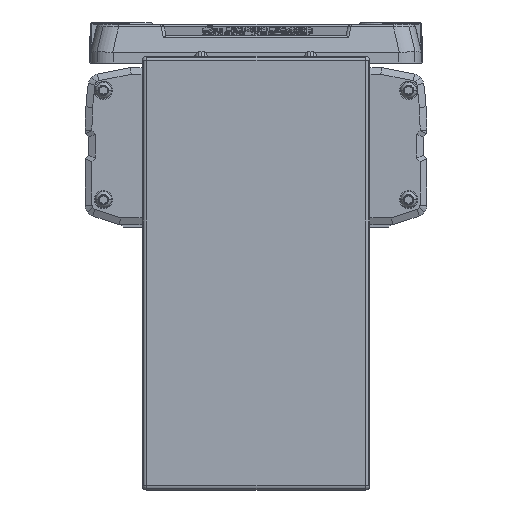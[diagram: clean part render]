
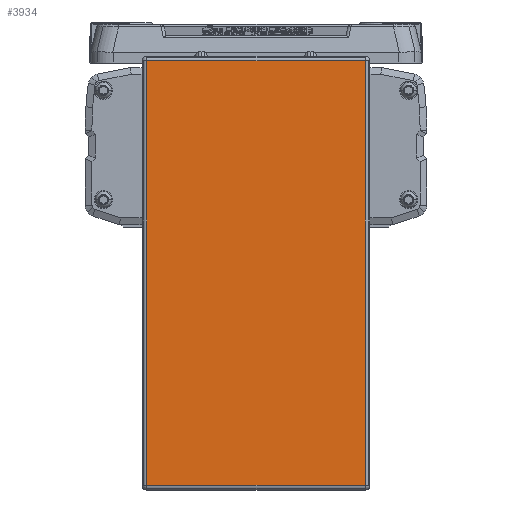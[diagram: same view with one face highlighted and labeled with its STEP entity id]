
A CAD part, left-side view. The second image highlights one B-rep face of the part: STEP entity #3934.
In plain terms, the highlighted planar face has unit normal (-1, 0, 0).
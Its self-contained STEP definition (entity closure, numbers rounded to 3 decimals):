
#3934=ADVANCED_FACE('',(#9128),#9129,.T.);
#9128=FACE_OUTER_BOUND('',#16478,.T.);
#9129=PLANE('',#16479);
#16478=EDGE_LOOP('',(#27998,#27999,#28000,#28001));
#16479=AXIS2_PLACEMENT_3D('',#28002,#28003,#28004);
#27998=ORIENTED_EDGE('',*,*,#43603,.F.);
#27999=ORIENTED_EDGE('',*,*,#41112,.F.);
#28000=ORIENTED_EDGE('',*,*,#44136,.F.);
#28001=ORIENTED_EDGE('',*,*,#44137,.F.);
#28002=CARTESIAN_POINT('',(-45.,0.,-64.2));
#28003=DIRECTION('',(-1.0,0.,0.));
#28004=DIRECTION('',(0.,1.0,0.));
#41112=EDGE_CURVE('',#49020,#49022,#49023,.T.);
#43603=EDGE_CURVE('',#49022,#50459,#53181,.T.);
#44136=EDGE_CURVE('',#53982,#49020,#53983,.T.);
#44137=EDGE_CURVE('',#50459,#53982,#53984,.T.);
#49020=VERTEX_POINT('',#60203);
#49022=VERTEX_POINT('',#60205);
#49023=LINE('',#60206,#60207);
#50459=VERTEX_POINT('',#62167);
#53181=LINE('',#65934,#65935);
#53982=VERTEX_POINT('',#67046);
#53983=LINE('',#67047,#67048);
#53984=LINE('',#67049,#67050);
#60203=CARTESIAN_POINT('',(-45.,48.,-157.4));
#60205=CARTESIAN_POINT('',(-45.,48.,29.));
#60206=CARTESIAN_POINT('',(-45.,48.,-64.2));
#60207=VECTOR('',#74928,10.0);
#62167=CARTESIAN_POINT('',(-45.,-48.,29.));
#65934=CARTESIAN_POINT('',(-45.,0.,29.));
#65935=VECTOR('',#78451,10.0);
#67046=CARTESIAN_POINT('',(-45.,-48.,-157.4));
#67047=CARTESIAN_POINT('',(-45.,0.,-157.4));
#67048=VECTOR('',#79138,10.0);
#67049=CARTESIAN_POINT('',(-45.,-48.,-64.2));
#67050=VECTOR('',#79139,10.0);
#74928=DIRECTION('',(0.,0.,1.0));
#78451=DIRECTION('',(0.0,-1.0,0.));
#79138=DIRECTION('',(0.0,1.0,0.));
#79139=DIRECTION('',(0.,0.,-1.0));
